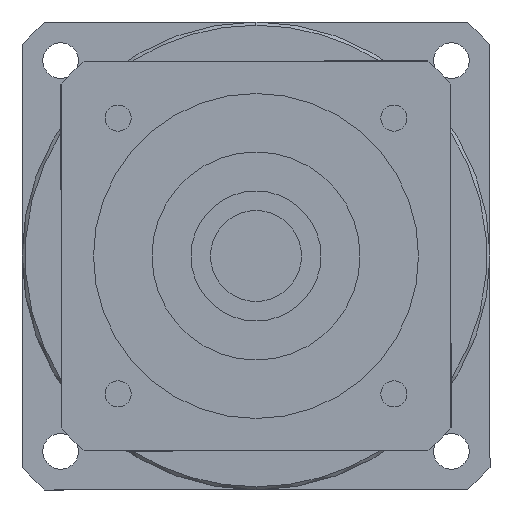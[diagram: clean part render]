
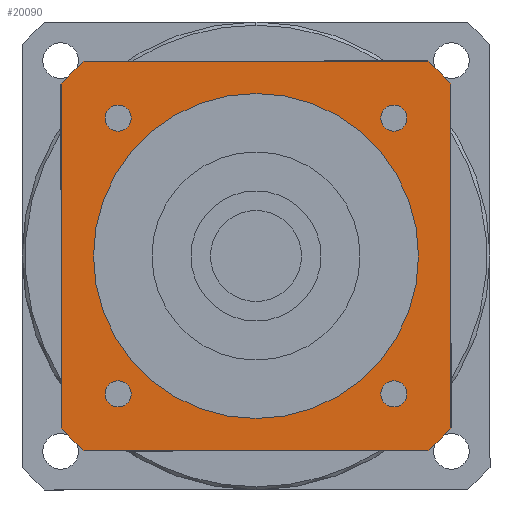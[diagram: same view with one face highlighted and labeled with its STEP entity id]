
A CAD part, left-side view. The second image highlights one B-rep face of the part: STEP entity #20090.
In plain terms, the highlighted planar face has unit normal (-1, 0, 0) as drawn and (0, 0, -1) by its records, which use the part's own axes.
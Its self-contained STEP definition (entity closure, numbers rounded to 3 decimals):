
#15580=CARTESIAN_POINT('',(26.458,-30.,-91.5));
#15590=VERTEX_POINT('',#15580);
#15670=CARTESIAN_POINT('',(30.,-26.458,-91.5));
#15680=VERTEX_POINT('',#15670);
#15710=CARTESIAN_POINT('',(0.,0.,
-91.5));
#15720=DIRECTION('',(0.,0.,1.));
#15730=DIRECTION('',(0.,-1.,0.));
#15740=AXIS2_PLACEMENT_3D('',#15710,#15720,#15730);
#15750=CIRCLE('',#15740,40.);
#15760=EDGE_CURVE('',#15590,#15680,#15750,.T.);
#17670=CARTESIAN_POINT('',(26.458,30.,-91.5));
#17680=VERTEX_POINT('',#17670);
#17860=CARTESIAN_POINT('',(-26.458,30.,-91.5));
#17870=VERTEX_POINT('',#17860);
#17900=CARTESIAN_POINT('',(30.,30.,-91.5));
#17910=DIRECTION('',(-1.,0.,0.));
#17920=VECTOR('',#17910,1000.);
#17930=LINE('',#17900,#17920);
#17940=EDGE_CURVE('',#17680,#17870,#17930,.T.);
#18300=CARTESIAN_POINT('',(-30.,26.458,-91.5));
#18310=VERTEX_POINT('',#18300);
#18340=CARTESIAN_POINT('',(0.,0.,
-91.5));
#18350=DIRECTION('',(0.,0.,1.));
#18360=DIRECTION('',(0.,-1.,0.));
#18370=AXIS2_PLACEMENT_3D('',#18340,#18350,#18360);
#18380=CIRCLE('',#18370,40.);
#18390=EDGE_CURVE('',#17870,#18310,#18380,.T.);
#18600=CARTESIAN_POINT('',(-30.,-26.458,-91.5));
#18610=VERTEX_POINT('',#18600);
#18640=CARTESIAN_POINT('',(-30.,30.,-91.5));
#18650=DIRECTION('',(0.,-1.,0.));
#18660=VECTOR('',#18650,1000.);
#18670=LINE('',#18640,#18660);
#18680=EDGE_CURVE('',#18310,#18610,#18670,.T.);
#18730=CARTESIAN_POINT('',(-30.,30.,-91.5));
#18740=DIRECTION('',(0.,0.,1.));
#18750=DIRECTION('',(-1.,0.,0.));
#18760=AXIS2_PLACEMENT_3D('',#18730,#18740,#18750);
#18770=PLANE('',#18760);
#18780=CARTESIAN_POINT('',(21.213,-21.213,-91.5));
#18790=DIRECTION('',(0.,0.,-1.));
#18800=DIRECTION('',(1.,0.,0.));
#18810=AXIS2_PLACEMENT_3D('',#18780,#18790,#18800);
#18820=CIRCLE('',#18810,2.);
#18830=CARTESIAN_POINT('',(23.213,-21.213,-91.5));
#18840=VERTEX_POINT('',#18830);
#18850=CARTESIAN_POINT('',(21.213,-23.213,-91.5));
#18860=VERTEX_POINT('',#18850);
#18870=EDGE_CURVE('',#18840,#18860,#18820,.T.);
#18880=ORIENTED_EDGE('',*,*,#18870,.F.);
#18890=CARTESIAN_POINT('',(21.213,-19.213,-91.5));
#18900=VERTEX_POINT('',#18890);
#18910=EDGE_CURVE('',#18860,#18900,#18820,.T.);
#18920=ORIENTED_EDGE('',*,*,#18910,.F.);
#18930=EDGE_CURVE('',#18900,#18840,#18820,.T.);
#18940=ORIENTED_EDGE('',*,*,#18930,.F.);
#18950=EDGE_LOOP('',(#18940,#18920,#18880));
#18960=FACE_BOUND('',#18950,.T.);
#18970=CARTESIAN_POINT('',(21.213,21.213,-91.5));
#18980=DIRECTION('',(0.,0.,-1.));
#18990=DIRECTION('',(0.,1.,0.));
#19000=AXIS2_PLACEMENT_3D('',#18970,#18980,#18990);
#19010=CIRCLE('',#19000,2.);
#19020=CARTESIAN_POINT('',(21.213,23.213,-91.5));
#19030=VERTEX_POINT('',#19020);
#19040=CARTESIAN_POINT('',(23.213,21.213,-91.5));
#19050=VERTEX_POINT('',#19040);
#19060=EDGE_CURVE('',#19030,#19050,#19010,.T.);
#19070=ORIENTED_EDGE('',*,*,#19060,.F.);
#19080=CARTESIAN_POINT('',(19.213,21.213,-91.5));
#19090=VERTEX_POINT('',#19080);
#19100=EDGE_CURVE('',#19050,#19090,#19010,.T.);
#19110=ORIENTED_EDGE('',*,*,#19100,.F.);
#19120=EDGE_CURVE('',#19090,#19030,#19010,.T.);
#19130=ORIENTED_EDGE('',*,*,#19120,.F.);
#19140=EDGE_LOOP('',(#19130,#19110,#19070));
#19150=FACE_BOUND('',#19140,.T.);
#19160=CARTESIAN_POINT('',(-21.213,21.213,-91.5));
#19170=DIRECTION('',(0.,0.,-1.));
#19180=DIRECTION('',(-1.,0.,0.));
#19190=AXIS2_PLACEMENT_3D('',#19160,#19170,#19180);
#19200=CIRCLE('',#19190,2.);
#19210=CARTESIAN_POINT('',(-23.213,21.213,-91.5));
#19220=VERTEX_POINT('',#19210);
#19230=CARTESIAN_POINT('',(-21.213,23.213,-91.5));
#19240=VERTEX_POINT('',#19230);
#19250=EDGE_CURVE('',#19220,#19240,#19200,.T.);
#19260=ORIENTED_EDGE('',*,*,#19250,.F.);
#19270=CARTESIAN_POINT('',(-21.213,19.213,-91.5));
#19280=VERTEX_POINT('',#19270);
#19290=EDGE_CURVE('',#19240,#19280,#19200,.T.);
#19300=ORIENTED_EDGE('',*,*,#19290,.F.);
#19310=EDGE_CURVE('',#19280,#19220,#19200,.T.);
#19320=ORIENTED_EDGE('',*,*,#19310,.F.);
#19330=EDGE_LOOP('',(#19320,#19300,#19260));
#19340=FACE_BOUND('',#19330,.T.);
#19350=CARTESIAN_POINT('',(-21.213,-21.213,-91.5));
#19360=DIRECTION('',(0.,0.,-1.));
#19370=DIRECTION('',(0.,-1.,0.));
#19380=AXIS2_PLACEMENT_3D('',#19350,#19360,#19370);
#19390=CIRCLE('',#19380,2.);
#19400=CARTESIAN_POINT('',(-21.213,-23.213,-91.5));
#19410=VERTEX_POINT('',#19400);
#19420=CARTESIAN_POINT('',(-23.213,-21.213,-91.5));
#19430=VERTEX_POINT('',#19420);
#19440=EDGE_CURVE('',#19410,#19430,#19390,.T.);
#19450=ORIENTED_EDGE('',*,*,#19440,.F.);
#19460=CARTESIAN_POINT('',(-19.213,-21.213,-91.5));
#19470=VERTEX_POINT('',#19460);
#19480=EDGE_CURVE('',#19430,#19470,#19390,.T.);
#19490=ORIENTED_EDGE('',*,*,#19480,.F.);
#19500=EDGE_CURVE('',#19470,#19410,#19390,.T.);
#19510=ORIENTED_EDGE('',*,*,#19500,.F.);
#19520=EDGE_LOOP('',(#19510,#19490,#19450));
#19530=FACE_BOUND('',#19520,.T.);
#19540=CARTESIAN_POINT('',(0.,0.,
-91.5));
#19550=DIRECTION('',(0.,0.,1.));
#19560=DIRECTION('',(0.,-1.,0.));
#19570=AXIS2_PLACEMENT_3D('',#19540,#19550,#19560);
#19580=CIRCLE('',#19570,40.);
#19590=CARTESIAN_POINT('',(-26.458,-30.,-91.5));
#19600=VERTEX_POINT('',#19590);
#19610=EDGE_CURVE('',#18610,#19600,#19580,.T.);
#19620=ORIENTED_EDGE('',*,*,#19610,.F.);
#19630=CARTESIAN_POINT('',(-30.,-30.,-91.5));
#19640=DIRECTION('',(1.,0.,0.));
#19650=VECTOR('',#19640,1000.);
#19660=LINE('',#19630,#19650);
#19670=EDGE_CURVE('',#19600,#15590,#19660,.T.);
#19680=ORIENTED_EDGE('',*,*,#19670,.F.);
#19690=ORIENTED_EDGE('',*,*,#15760,.F.);
#19700=CARTESIAN_POINT('',(30.,-30.,-91.5));
#19710=DIRECTION('',(0.,1.,0.));
#19720=VECTOR('',#19710,1000.);
#19730=LINE('',#19700,#19720);
#19740=CARTESIAN_POINT('',(30.,26.458,-91.5));
#19750=VERTEX_POINT('',#19740);
#19760=EDGE_CURVE('',#15680,#19750,#19730,.T.);
#19770=ORIENTED_EDGE('',*,*,#19760,.F.);
#19780=CARTESIAN_POINT('',(0.,0.,
-91.5));
#19790=DIRECTION('',(0.,0.,1.));
#19800=DIRECTION('',(0.,-1.,0.));
#19810=AXIS2_PLACEMENT_3D('',#19780,#19790,#19800);
#19820=CIRCLE('',#19810,40.);
#19830=EDGE_CURVE('',#19750,#17680,#19820,.T.);
#19840=ORIENTED_EDGE('',*,*,#19830,.F.);
#19850=ORIENTED_EDGE('',*,*,#17940,.F.);
#19860=ORIENTED_EDGE('',*,*,#18390,.F.);
#19870=ORIENTED_EDGE('',*,*,#18680,.F.);
#19880=EDGE_LOOP('',(#19870,#19860,#19850,#19840,#19770,#19690,#19680,
#19620));
#19890=FACE_OUTER_BOUND('',#19880,.T.);
#19900=CARTESIAN_POINT('',(0.,0.,
-91.5));
#19910=DIRECTION('',(0.,0.,1.));
#19920=DIRECTION('',(0.,-1.,0.));
#19930=AXIS2_PLACEMENT_3D('',#19900,#19910,#19920);
#19940=CIRCLE('',#19930,25.);
#19950=CARTESIAN_POINT('',(25.,0.,-91.5));
#19960=VERTEX_POINT('',#19950);
#19970=CARTESIAN_POINT('',(-25.,0.,-91.5));
#19980=VERTEX_POINT('',#19970);
#19990=EDGE_CURVE('',#19960,#19980,#19940,.T.);
#20000=ORIENTED_EDGE('',*,*,#19990,.T.);
#20010=CARTESIAN_POINT('',(0.,-25.,-91.5));
#20020=VERTEX_POINT('',#20010);
#20030=EDGE_CURVE('',#20020,#19960,#19940,.T.);
#20040=ORIENTED_EDGE('',*,*,#20030,.T.);
#20050=EDGE_CURVE('',#19980,#20020,#19940,.T.);
#20060=ORIENTED_EDGE('',*,*,#20050,.T.);
#20070=EDGE_LOOP('',(#20060,#20040,#20000));
#20080=FACE_BOUND('',#20070,.T.);
#20090=ADVANCED_FACE('',(#18960,#19150,#19340,#19530,#19890,#20080),
#18770,.F.);
